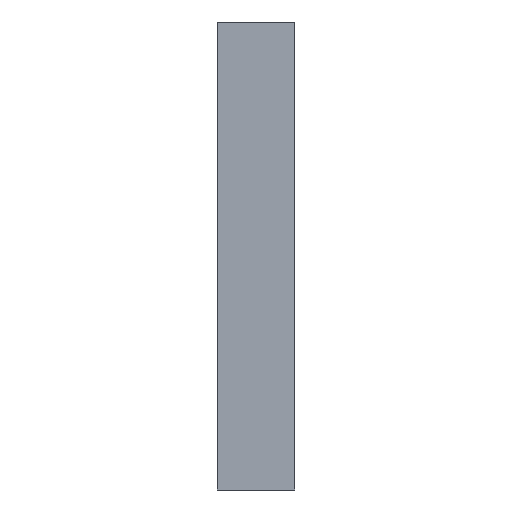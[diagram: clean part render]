
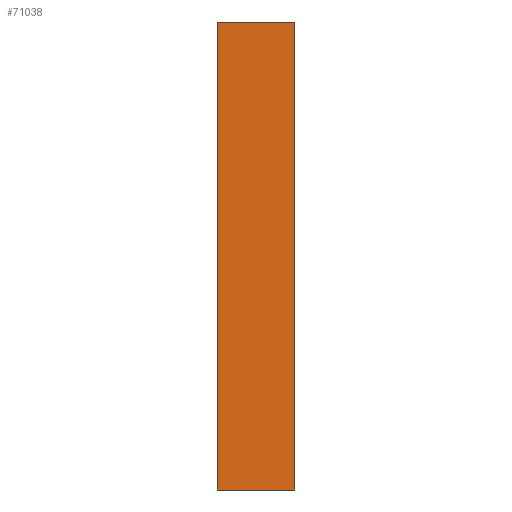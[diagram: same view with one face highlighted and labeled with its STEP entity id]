
A CAD part, left-side view. The second image highlights one B-rep face of the part: STEP entity #71038.
In plain terms, the highlighted planar face has unit normal (-1, 0, 0).
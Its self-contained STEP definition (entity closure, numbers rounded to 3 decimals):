
#226 = EDGE_CURVE ( 'NONE', #49493, #3318, #15979, .T. ) ;
#1783 = LINE ( 'NONE', #56419, #67373 ) ;
#3318 = VERTEX_POINT ( 'NONE', #7791 ) ;
#3999 = AXIS2_PLACEMENT_3D ( 'NONE', #28472, #74268, #35053 ) ;
#4388 = VECTOR ( 'NONE', #54414, 39.37 ) ;
#5418 = ORIENTED_EDGE ( 'NONE', *, *, #61670, .F. ) ;
#6294 = DIRECTION ( 'NONE',  ( 0., 0., -1. ) ) ;
#7791 = CARTESIAN_POINT ( 'NONE',  ( -22.618, 0., -9.058 ) ) ;
#8185 = PLANE ( 'NONE',  #3999 ) ;
#11837 = VECTOR ( 'NONE', #72507, 39.37 ) ;
#12898 = CARTESIAN_POINT ( 'NONE',  ( -22.618, 0., -9.058 ) ) ;
#15979 = LINE ( 'NONE', #19368, #11837 ) ;
#16499 = VERTEX_POINT ( 'NONE', #53798 ) ;
#19368 = CARTESIAN_POINT ( 'NONE',  ( -22.618, 52.239, -9.058 ) ) ;
#21484 = CARTESIAN_POINT ( 'NONE',  ( -22.618, 3.01, -9.058 ) ) ;
#26274 = CARTESIAN_POINT ( 'NONE',  ( -22.618, 3.01, 9.058 ) ) ;
#28472 = CARTESIAN_POINT ( 'NONE',  ( -22.618, 52.239, -9.058 ) ) ;
#35053 = DIRECTION ( 'NONE',  ( 0., 0., 1. ) ) ;
#36332 = EDGE_CURVE ( 'NONE', #46352, #49493, #39281, .T. ) ;
#37691 = ORIENTED_EDGE ( 'NONE', *, *, #226, .T. ) ;
#39281 = LINE ( 'NONE', #21484, #4388 ) ;
#46352 = VERTEX_POINT ( 'NONE', #26274 ) ;
#46422 = ORIENTED_EDGE ( 'NONE', *, *, #36332, .T. ) ;
#46746 = LINE ( 'NONE', #12898, #64094 ) ;
#49493 = VERTEX_POINT ( 'NONE', #72573 ) ;
#49815 = DIRECTION ( 'NONE',  ( 0., -1., 0. ) ) ;
#50739 = EDGE_LOOP ( 'NONE', ( #74148, #46422, #37691, #5418 ) ) ;
#53798 = CARTESIAN_POINT ( 'NONE',  ( -22.618, 0., 9.058 ) ) ;
#54414 = DIRECTION ( 'NONE',  ( 0., 0., -1. ) ) ;
#56419 = CARTESIAN_POINT ( 'NONE',  ( -22.618, 52.239, 9.058 ) ) ;
#61670 = EDGE_CURVE ( 'NONE', #16499, #3318, #46746, .T. ) ;
#64094 = VECTOR ( 'NONE', #6294, 39.37 ) ;
#67373 = VECTOR ( 'NONE', #49815, 39.37 ) ;
#69402 = EDGE_CURVE ( 'NONE', #46352, #16499, #1783, .T. ) ;
#71038 = ADVANCED_FACE ( 'NONE', ( #84723 ), #8185, .T. ) ;
#72507 = DIRECTION ( 'NONE',  ( 0., -1., 0. ) ) ;
#72573 = CARTESIAN_POINT ( 'NONE',  ( -22.618, 3.01, -9.058 ) ) ;
#74148 = ORIENTED_EDGE ( 'NONE', *, *, #69402, .F. ) ;
#74268 = DIRECTION ( 'NONE',  ( -1., 0., 0. ) ) ;
#84723 = FACE_OUTER_BOUND ( 'NONE', #50739, .T. ) ;
